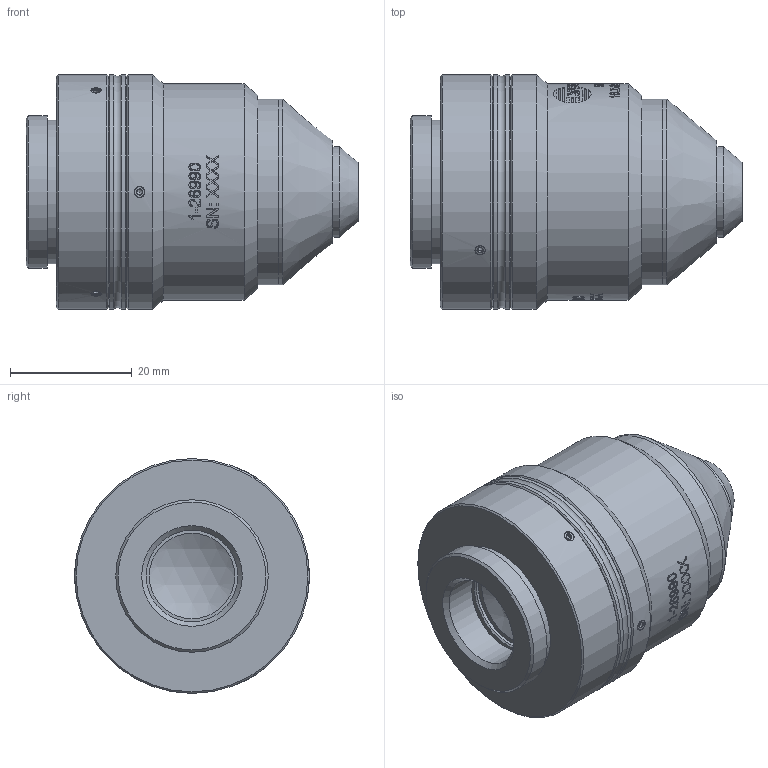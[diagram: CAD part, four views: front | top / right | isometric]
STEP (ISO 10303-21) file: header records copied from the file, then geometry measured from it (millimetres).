
FILE_DESCRIPTION(/* description */ (''),/* implementation_level */ '2;1');
FILE_NAME(/* name */ 'C:\Vault_Workspace\Navitar_Vault\Designs\Special Optics WIP\Chris Riley\E4085 ASI\Eng Dwg\Step Files\1-26990 (54-10-12 @ 480-910nm) REV C.stp',/* time_stamp */ '2018-12-06T11:27:17-05:00',/* author */ ('criley'),/* organization */ ('NAVITAR'),/* preprocessor_version */ 'ST-DEVELOPER v17',/* originating_system */ 'Autodesk Inventor 2018',/* authorisation */ '');
FILE_SCHEMA (('AUTOMOTIVE_DESIGN { 1 0 10303 214 3 1 1 }'));
Products named in the file (1): 1-26990_Shrinkwrap_Rev C
Bounding box: 54.45 x 38.5 x 38.5 mm (x, y, z)
Volume: 42644.6 mm3; surface area: 11482.9 mm2
Topology: 3 solids, 9 shells, 1165 faces, 2944 edges, 1920 vertices
Faces by surface type: plane 509, bspline 425, cylinder 141, cone 87, sphere 2, torus 1
Full cylindrical faces by diameter (mm): 1.524 x2, 1.694 x8, 2.184 x1, 2.54 x2, 2.591 x1, 14.89 x2, 15 x2, 20 x2, 23.5 x1, 25 x1, 30.5 x2, 35 x1, 35.5 x1, 35.75 x1, 38.5 x4
Entity records: 45675 total; most frequent: CARTESIAN_POINT 19051, ORIENTED_EDGE 5868, DIRECTION 4079, EDGE_CURVE 2934, VERTEX_POINT 1920, AXIS2_PLACEMENT_3D 1361, LINE 1357, VECTOR 1357
